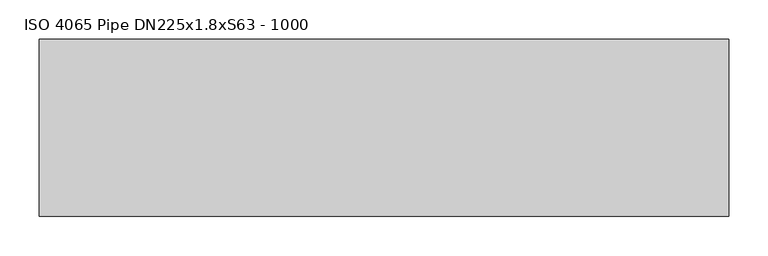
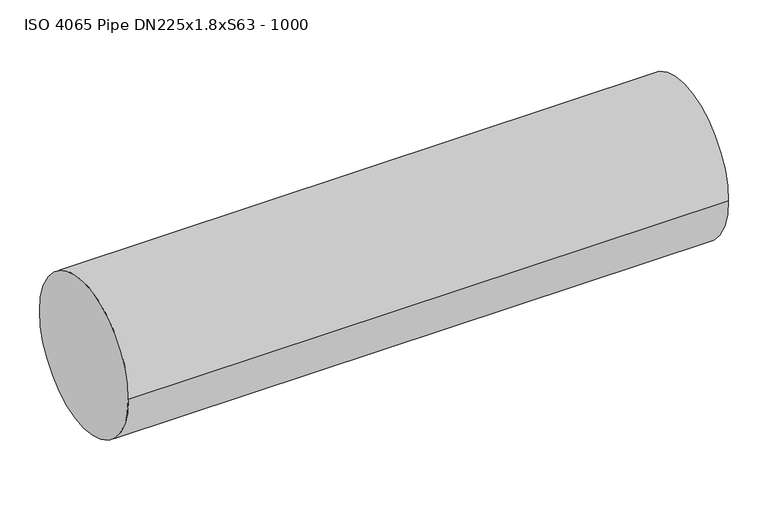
"""IFC4 building model written with IfcOpenShell, lengths in millimetres: proxy geometry, ISO 4065 Pipe DN225x1.8xS63 - 1000."""

from ifc_helpers import new_model, si_unit, frame, origin, place, context, project, spatial, circle_curve, source, transform, mapped, element, save
from ifc_brep_helpers import plane_surface, cylinder_surface, advanced_brep


def iso_4065_pipe_dn225x1_8xs63_1000_9bbd7cee(model_context):
    return source(origin(), model_context, "Body", "AdvancedBrep", [
        advanced_brep(
        [(203.3, -112.5, 0.0), (1080.0, -112.5, 0.0), (1080.0, 112.5, 0.0), (203.3, 112.5, 0.0), (203.3, 0.0, -112.5)],
        [
            (0, 1),
            (1, 2, circle_curve(frame((1080.0, 0.0, 0.0), z_axis=(-1.0, 0.0, 0.0), x_axis=(0.0, -1.0, 0.0)), 112.5)),
            (2, 3),
            (3, 0, circle_curve(frame((203.3, 0.0, 0.0), z_axis=(1.0, 0.0, 0.0), x_axis=(0.0, -1.0, 0.0)), 112.5)),
            (1, 2, circle_curve(frame((1080.0, 0.0, 0.0), z_axis=(1.0, 0.0, 0.0), x_axis=(0.0, -1.0, 0.0)), 112.5)),
            (3, 4, circle_curve(frame((203.3, 0.0, 0.0), z_axis=(-1.0, 0.0, 0.0), x_axis=(0.0, -1.0, 0.0)), 112.5)),
            (4, 0, circle_curve(frame((203.3, 0.0, 0.0), z_axis=(-1.0, 0.0, 0.0), x_axis=(0.0, -1.0, 0.0)), 112.5)),
        ],
        [
            cylinder_surface(frame((0.0, 0.0, 0.0), z_axis=(1.0, 0.0, 0.0), x_axis=(0.0, -1.0, 0.0)), 112.5),
            plane_surface(frame((1080.0, 0.0, 0.0), z_axis=(1.0, 0.0, 0.0), x_axis=(0.0, 0.0, 1.0))),
            plane_surface(frame((203.3, 0.0, 0.0), z_axis=(-1.0, 0.0, 0.0), x_axis=(0.0, 0.0, -1.0))),
        ],
        [
            (0, [[1, 2, 3, 4]]),
            (1, [[5, -2]]),
            (2, [[6, 7, -4]]),
            (0, [[-1, -7, -6, -3, -5]]),
        ],
    ),
    ])


if __name__ == "__main__":
    model = new_model("IFC4")
    model_context = context("Model", 3, world=origin())
    ifc_project = project(units=[si_unit("LENGTHUNIT", "METRE", prefix="MILLI")], contexts=[model_context])
    site = spatial("IfcSite", under=ifc_project)
    building = spatial("IfcBuilding", under=site)
    placement = place(None, origin())
    iso_4065_pipe_dn225x1_8xs63_1000_shape = iso_4065_pipe_dn225x1_8xs63_1000_9bbd7cee(model_context)
    element("IfcBuildingElementProxy", 1, Name="ISO 4065 Pipe DN225x1.8xS63 - 1000", ObjectType="ISO 4065 Pipe DN225x1.8xS63 - 1000", at=placement, inside=building, context=model_context, shape_type="MappedRepresentation", body=[
        mapped(iso_4065_pipe_dn225x1_8xs63_1000_shape, transform((0.0, 0.0, 0.0), x_axis=(1.0, 0.0, 0.0), y_axis=(0.0, 1.0, 0.0), z_axis=(0.0, 0.0, 1.0))),
    ])
    save(model, "model.ifc")
